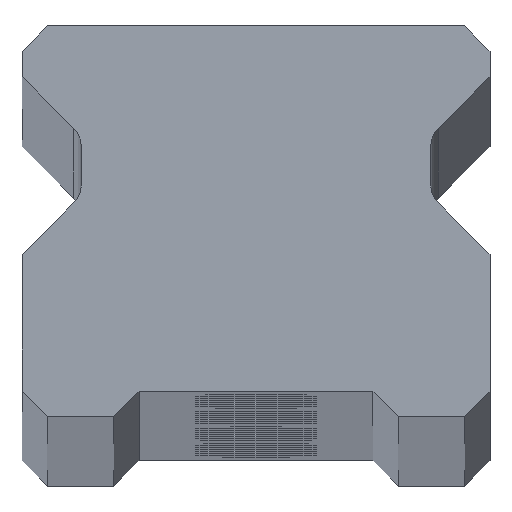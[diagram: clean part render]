
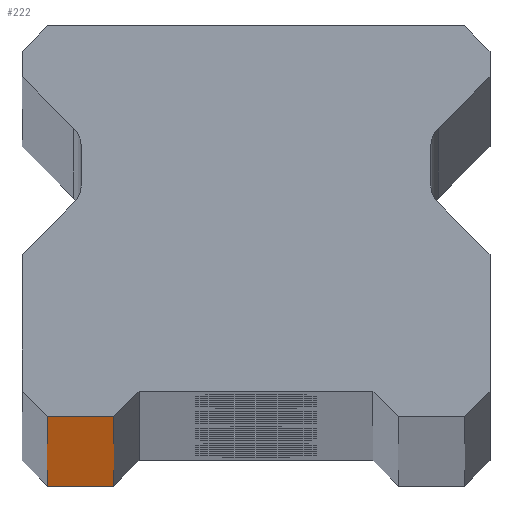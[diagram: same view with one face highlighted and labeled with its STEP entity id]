
A CAD part, top view. The second image highlights one B-rep face of the part: STEP entity #222.
In plain terms, the highlighted planar face has unit normal (0, -1, 0).
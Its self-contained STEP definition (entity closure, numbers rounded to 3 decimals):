
#222 = ADVANCED_FACE ( 'NONE', ( #6759 ), #453, .F. ) ;
#381 = ORIENTED_EDGE ( 'NONE', *, *, #1637, .F. ) ;
#453 = PLANE ( 'NONE',  #6619 ) ;
#612 = CARTESIAN_POINT ( 'NONE',  ( -7., 0., 980. ) ) ;
#703 = DIRECTION ( 'NONE',  ( 0., 0., 1. ) ) ;
#1025 = EDGE_CURVE ( 'NONE', #3016, #6009, #5640, .T. ) ;
#1082 = ORIENTED_EDGE ( 'NONE', *, *, #3282, .T. ) ;
#1118 = DIRECTION ( 'NONE',  ( 1., 0., 0. ) ) ;
#1235 = DIRECTION ( 'NONE',  ( 1., 0., 0. ) ) ;
#1525 = DIRECTION ( 'NONE',  ( 0., 1., 0. ) ) ;
#1637 = EDGE_CURVE ( 'NONE', #2076, #6009, #5887, .T. ) ;
#1866 = EDGE_CURVE ( 'NONE', #4273, #3016, #5803, .T. ) ;
#2076 = VERTEX_POINT ( 'NONE', #4595 ) ;
#2459 = VECTOR ( 'NONE', #1235, 1000. ) ;
#2668 = CARTESIAN_POINT ( 'NONE',  ( -10.25, 0., 980. ) ) ;
#2924 = VECTOR ( 'NONE', #6408, 1000. ) ;
#2978 = CARTESIAN_POINT ( 'NONE',  ( -10.25, 0., -980. ) ) ;
#3016 = VERTEX_POINT ( 'NONE', #4077 ) ;
#3282 = EDGE_CURVE ( 'NONE', #2076, #4273, #5259, .T. ) ;
#4077 = CARTESIAN_POINT ( 'NONE',  ( -7., 0., -980. ) ) ;
#4188 = ORIENTED_EDGE ( 'NONE', *, *, #1866, .T. ) ;
#4195 = CARTESIAN_POINT ( 'NONE',  ( 11.5, 0., 980. ) ) ;
#4220 = VECTOR ( 'NONE', #1118, 1000. ) ;
#4273 = VERTEX_POINT ( 'NONE', #2978 ) ;
#4333 = CARTESIAN_POINT ( 'NONE',  ( 11.5, 0., -980. ) ) ;
#4481 = CARTESIAN_POINT ( 'NONE',  ( 11.5, 0., 980. ) ) ;
#4595 = CARTESIAN_POINT ( 'NONE',  ( -10.25, 0., 980. ) ) ;
#4634 = VECTOR ( 'NONE', #703, 1000. ) ;
#4938 = ORIENTED_EDGE ( 'NONE', *, *, #1025, .T. ) ;
#5248 = DIRECTION ( 'NONE',  ( -1., 0., 0. ) ) ;
#5259 = LINE ( 'NONE', #2668, #2924 ) ;
#5497 = CARTESIAN_POINT ( 'NONE',  ( -7., 0., -980. ) ) ;
#5640 = LINE ( 'NONE', #5497, #4634 ) ;
#5803 = LINE ( 'NONE', #4333, #4220 ) ;
#5887 = LINE ( 'NONE', #4481, #2459 ) ;
#6009 = VERTEX_POINT ( 'NONE', #612 ) ;
#6408 = DIRECTION ( 'NONE',  ( 0., 0., -1. ) ) ;
#6619 = AXIS2_PLACEMENT_3D ( 'NONE', #4195, #1525, #5248 ) ;
#6759 = FACE_OUTER_BOUND ( 'NONE', #6964, .T. ) ;
#6964 = EDGE_LOOP ( 'NONE', ( #4188, #4938, #381, #1082 ) ) ;
